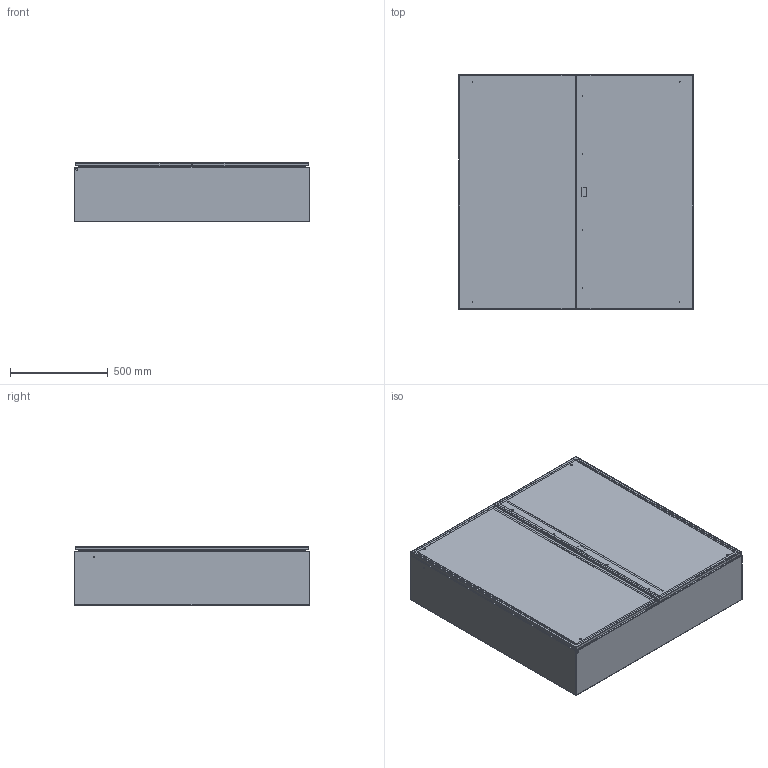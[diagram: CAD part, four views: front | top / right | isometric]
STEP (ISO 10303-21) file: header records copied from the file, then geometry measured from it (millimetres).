
FILE_DESCRIPTION (( 'STEP AP203' ), '1' );
FILE_NAME ('2162010017_semplificato.STEP', '2021-01-08T12:43:36', ( '' ), ( '' ), 'SwSTEP 2.0', 'SolidWorks 2019', '' );
FILE_SCHEMA (( 'CONFIG_CONTROL_DESIGN' ));
Length unit declared in the file: millimetre
Products named in the file (24): 2162010017_05008030201_08; 2162010017_06008030201_08; 2162010017_06008030301_08; 2162010017_04008030201_08; 2162010017_03008010506_12; 2162010017_04008010504_12; 2162010017_05008010504_12; 2162010017_04008030301_08; 2162010017_00008030004_19; 2162010017_07008030201_08; 2162010017_07008040101_27; 2162010017_PERNO FILETTATO A SALDARE DIN32501_M6x15_ramato; 2162010017_03008010507_06; 2162010017_ECOR_Gomma_porta_IB_08; 2162010017_03008010508_06; 2162010017_03008030301_08; 2162010017_03008040101_27; 2162010017_03008030201_08; 2162010017_00008010102_01; 2162010017_semplificato; 2162010017_Dado esagonale flangiato zigrinato DIN6923_Dado  M8 flangiato-zigrinato DIN6923; 2162010017_07008030301_08; 2162010017_05008030301_08; 2162010017_ECOR_Gomma_porta_CB_08
Assembly tree (37 placements, depth 6):
  2162010017_semplificato
    2162010017_05008010504_12
      2162010017_04008010504_12
        2162010017_03008010506_12
        2162010017_03008010507_06
        2162010017_03008010508_06
        2162010017_PERNO FILETTATO A SALDARE DIN32501_M6x15_ramato  x2
    2162010017_07008040101_27
      2162010017_03008040101_27
      2162010017_Dado esagonale flangiato zigrinato DIN6923_Dado  M8 flangiato-zigrinato DIN6923  x4
    2162010017_07008030201_08
      2162010017_06008030201_08
        2162010017_05008030201_08
          2162010017_04008030201_08
            2162010017_03008030201_08
            2162010017_00008010102_01  x6
            2162010017_00008030004_19  x2
        2162010017_ECOR_Gomma_porta_IB_08
    2162010017_07008030301_08
      2162010017_06008030301_08
        2162010017_05008030301_08
          2162010017_04008030301_08
            2162010017_03008030301_08
            2162010017_00008010102_01  x2
            2162010017_00008030004_19  x2
        2162010017_ECOR_Gomma_porta_CB_08
Bounding box: 1200 x 1200 x 300 mm (x, y, z)
Volume: 9638662.5 mm3; surface area: 12205810.3 mm2
Topology: 82 solids, 82 shells, 1588 faces, 3727 edges, 2310 vertices
Faces by surface type: cylinder 755, plane 570, bspline 108, cone 88, torus 67
Entity records: 30181 total; most frequent: CARTESIAN_POINT 6553, DIRECTION 4375, ORIENTED_EDGE 4194, EDGE_CURVE 2097, AXIS2_PLACEMENT_3D 1650, VERTEX_POINT 1286, EDGE_LOOP 1089, VECTOR 1075
